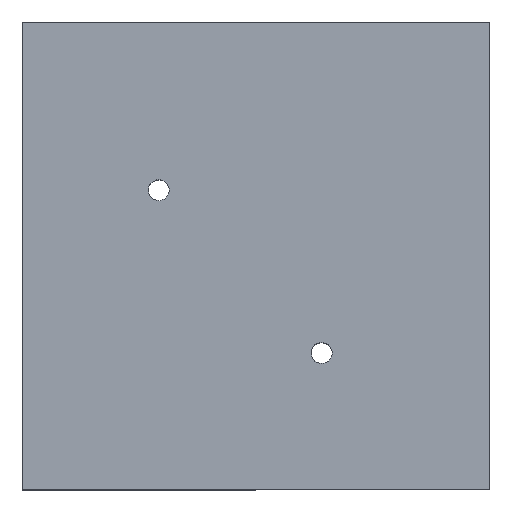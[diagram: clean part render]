
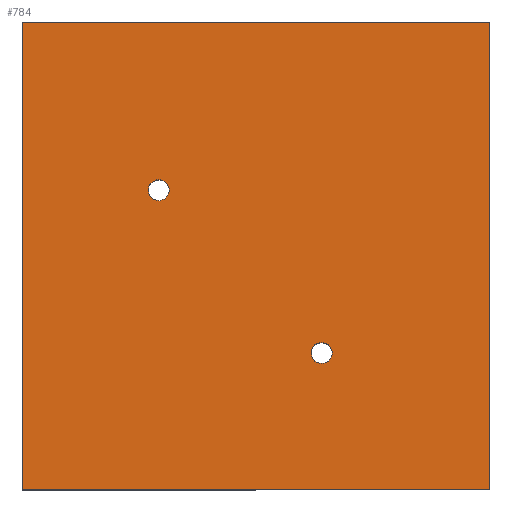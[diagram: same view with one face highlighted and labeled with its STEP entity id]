
A CAD part, top view. The second image highlights one B-rep face of the part: STEP entity #784.
In plain terms, the highlighted planar face has unit normal (0, 0, 1).
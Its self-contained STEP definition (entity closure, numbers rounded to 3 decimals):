
#10 = DIRECTION ( 'NONE',  ( 0., 0., 1. ) ) ;
#13 = ORIENTED_EDGE ( 'NONE', *, *, #446, .T. ) ;
#35 = EDGE_CURVE ( 'NONE', #1085, #151, #1031, .T. ) ;
#91 = CARTESIAN_POINT ( 'NONE',  ( -8.25, 6.25, 12.5 ) ) ;
#103 = AXIS2_PLACEMENT_3D ( 'NONE', #1160, #642, #634 ) ;
#134 = EDGE_CURVE ( 'NONE', #1189, #608, #1166, .T. ) ;
#151 = VERTEX_POINT ( 'NONE', #212 ) ;
#154 = VERTEX_POINT ( 'NONE', #740 ) ;
#184 = CARTESIAN_POINT ( 'NONE',  ( -10.25, 6.25, 12.5 ) ) ;
#196 = CIRCLE ( 'NONE', #103, 1. ) ;
#212 = CARTESIAN_POINT ( 'NONE',  ( 22.25, -22.25, 12.5 ) ) ;
#267 = ORIENTED_EDGE ( 'NONE', *, *, #1009, .F. ) ;
#269 = CARTESIAN_POINT ( 'NONE',  ( -22.25, 22.25, 12.5 ) ) ;
#291 = PLANE ( 'NONE',  #1061 ) ;
#293 = ORIENTED_EDGE ( 'NONE', *, *, #1230, .T. ) ;
#297 = DIRECTION ( 'NONE',  ( 0., 0., 1. ) ) ;
#313 = FACE_BOUND ( 'NONE', #468, .T. ) ;
#368 = CARTESIAN_POINT ( 'NONE',  ( 6.25, -9.25, 12.5 ) ) ;
#382 = DIRECTION ( 'NONE',  ( 1., 0., 0. ) ) ;
#408 = DIRECTION ( 'NONE',  ( 1., 0., 0. ) ) ;
#415 = CARTESIAN_POINT ( 'NONE',  ( 0., 0., 12.5 ) ) ;
#436 = CARTESIAN_POINT ( 'NONE',  ( -9.25, 6.25, 12.5 ) ) ;
#446 = EDGE_CURVE ( 'NONE', #151, #496, #894, .T. ) ;
#468 = EDGE_LOOP ( 'NONE', ( #575, #889 ) ) ;
#471 = DIRECTION ( 'NONE',  ( 0., -1., 0. ) ) ;
#496 = VERTEX_POINT ( 'NONE', #1114 ) ;
#531 = VECTOR ( 'NONE', #1004, 1000. ) ;
#558 = AXIS2_PLACEMENT_3D ( 'NONE', #723, #1326, #408 ) ;
#575 = ORIENTED_EDGE ( 'NONE', *, *, #811, .F. ) ;
#601 = FACE_OUTER_BOUND ( 'NONE', #714, .T. ) ;
#604 = CARTESIAN_POINT ( 'NONE',  ( 22.25, 22.25, 12.5 ) ) ;
#605 = CARTESIAN_POINT ( 'NONE',  ( -22.25, -22.25, 12.5 ) ) ;
#607 = CIRCLE ( 'NONE', #558, 1. ) ;
#608 = VERTEX_POINT ( 'NONE', #91 ) ;
#634 = DIRECTION ( 'NONE',  ( 1., 0., 0. ) ) ;
#637 = AXIS2_PLACEMENT_3D ( 'NONE', #436, #10, #1162 ) ;
#642 = DIRECTION ( 'NONE',  ( 0., 0., 1. ) ) ;
#658 = CARTESIAN_POINT ( 'NONE',  ( 5.25, -9.25, 12.5 ) ) ;
#661 = VERTEX_POINT ( 'NONE', #658 ) ;
#714 = EDGE_LOOP ( 'NONE', ( #988, #834, #13, #293 ) ) ;
#723 = CARTESIAN_POINT ( 'NONE',  ( -9.25, 6.25, 12.5 ) ) ;
#732 = EDGE_CURVE ( 'NONE', #154, #1085, #1200, .T. ) ;
#740 = CARTESIAN_POINT ( 'NONE',  ( -22.25, 22.25, 12.5 ) ) ;
#784 = ADVANCED_FACE ( 'NONE', ( #313, #905, #601 ), #291, .T. ) ;
#802 = VECTOR ( 'NONE', #471, 1000. ) ;
#811 = EDGE_CURVE ( 'NONE', #608, #1189, #607, .T. ) ;
#834 = ORIENTED_EDGE ( 'NONE', *, *, #35, .T. ) ;
#855 = ORIENTED_EDGE ( 'NONE', *, *, #957, .F. ) ;
#869 = DIRECTION ( 'NONE',  ( 1., 0., 0. ) ) ;
#888 = DIRECTION ( 'NONE',  ( 0., 0., 1. ) ) ;
#889 = ORIENTED_EDGE ( 'NONE', *, *, #134, .F. ) ;
#894 = LINE ( 'NONE', #604, #531 ) ;
#905 = FACE_BOUND ( 'NONE', #954, .T. ) ;
#915 = AXIS2_PLACEMENT_3D ( 'NONE', #368, #888, #869 ) ;
#942 = VERTEX_POINT ( 'NONE', #1167 ) ;
#954 = EDGE_LOOP ( 'NONE', ( #855, #267 ) ) ;
#957 = EDGE_CURVE ( 'NONE', #942, #661, #196, .T. ) ;
#988 = ORIENTED_EDGE ( 'NONE', *, *, #732, .T. ) ;
#1004 = DIRECTION ( 'NONE',  ( 0., 1., 0. ) ) ;
#1009 = EDGE_CURVE ( 'NONE', #661, #942, #1087, .T. ) ;
#1031 = LINE ( 'NONE', #605, #1293 ) ;
#1061 = AXIS2_PLACEMENT_3D ( 'NONE', #415, #297, #1112 ) ;
#1083 = LINE ( 'NONE', #269, #1097 ) ;
#1085 = VERTEX_POINT ( 'NONE', #1086 ) ;
#1086 = CARTESIAN_POINT ( 'NONE',  ( -22.25, -22.25, 12.5 ) ) ;
#1087 = CIRCLE ( 'NONE', #915, 1. ) ;
#1097 = VECTOR ( 'NONE', #1288, 1000. ) ;
#1112 = DIRECTION ( 'NONE',  ( 1., 0., 0. ) ) ;
#1114 = CARTESIAN_POINT ( 'NONE',  ( 22.25, 22.25, 12.5 ) ) ;
#1160 = CARTESIAN_POINT ( 'NONE',  ( 6.25, -9.25, 12.5 ) ) ;
#1162 = DIRECTION ( 'NONE',  ( 1., 0., 0. ) ) ;
#1166 = CIRCLE ( 'NONE', #637, 1. ) ;
#1167 = CARTESIAN_POINT ( 'NONE',  ( 7.25, -9.25, 12.5 ) ) ;
#1189 = VERTEX_POINT ( 'NONE', #184 ) ;
#1200 = LINE ( 'NONE', #1214, #802 ) ;
#1214 = CARTESIAN_POINT ( 'NONE',  ( -22.25, 22.25, 12.5 ) ) ;
#1230 = EDGE_CURVE ( 'NONE', #496, #154, #1083, .T. ) ;
#1288 = DIRECTION ( 'NONE',  ( -1., 0., 0. ) ) ;
#1293 = VECTOR ( 'NONE', #382, 1000. ) ;
#1326 = DIRECTION ( 'NONE',  ( 0., 0., 1. ) ) ;
